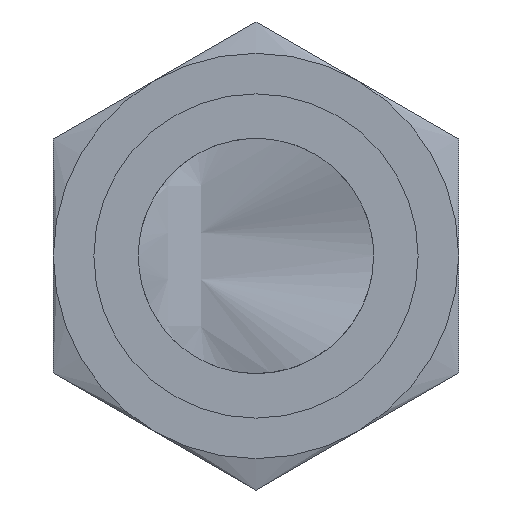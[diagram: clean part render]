
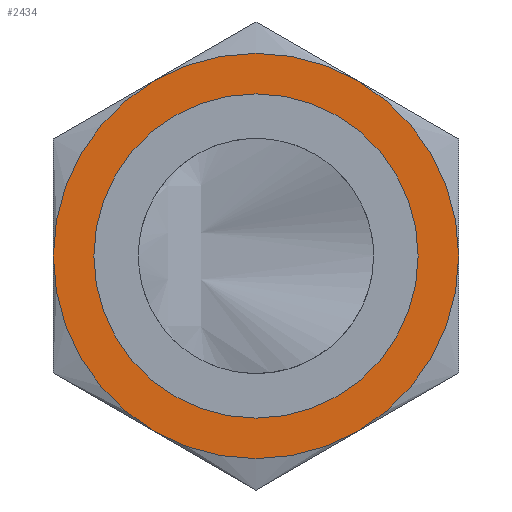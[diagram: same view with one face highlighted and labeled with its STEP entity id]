
A CAD part, front view. The second image highlights one B-rep face of the part: STEP entity #2434.
In plain terms, the highlighted planar face has unit normal (0, -1, 0) as drawn and (0, 0, -1) by its records, which use the part's own axes.
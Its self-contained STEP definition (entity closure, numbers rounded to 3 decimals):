
#1785=CARTESIAN_POINT('',(0.,0.,0.));
#1786=DIRECTION('',(0.,0.,-1.));
#1787=DIRECTION('',(1.,0.,0.));
#1788=AXIS2_PLACEMENT_3D('',#1785,#1786,#1787);
#1793=CARTESIAN_POINT('',(0.,0.,0.));
#1794=DIRECTION('',(0.,0.,-1.));
#1795=DIRECTION('',(0.5,0.866,0.));
#1796=AXIS2_PLACEMENT_3D('',#1793,#1794,#1795);
#1801=CARTESIAN_POINT('',(0.,0.,0.));
#1802=DIRECTION('',(0.,0.,-1.));
#1803=DIRECTION('',(-1.,0.,0.));
#1804=AXIS2_PLACEMENT_3D('',#1801,#1802,#1803);
#1809=CARTESIAN_POINT('',(0.,0.,0.));
#1810=DIRECTION('',(0.,0.,-1.));
#1811=DIRECTION('',(-0.5,-0.866,0.));
#1812=AXIS2_PLACEMENT_3D('',#1809,#1810,#1811);
#1817=CARTESIAN_POINT('',(0.,0.,0.));
#1818=DIRECTION('',(0.,0.,-1.));
#1819=DIRECTION('',(0.,-1.,0.));
#1820=AXIS2_PLACEMENT_3D('',#1817,#1818,#1819);
#1825=CARTESIAN_POINT('',(0.,0.,0.));
#1826=DIRECTION('',(0.,0.,-1.));
#1827=DIRECTION('',(0.,1.,0.));
#1828=AXIS2_PLACEMENT_3D('',#1825,#1826,#1827);
#1833=CARTESIAN_POINT('',(0.,0.,0.));
#1834=DIRECTION('',(0.,0.,-1.));
#1835=DIRECTION('',(0.5,-0.866,0.));
#1836=AXIS2_PLACEMENT_3D('',#1833,#1834,#1835);
#1896=CARTESIAN_POINT('',(0.,0.,0.));
#1897=DIRECTION('',(0.,0.,-1.));
#1898=DIRECTION('',(-0.5,0.866,0.));
#1899=AXIS2_PLACEMENT_3D('',#1896,#1897,#1898);
#2349=CARTESIAN_POINT('',(-2.5,-4.33,0.));
#2350=CARTESIAN_POINT('',(-5.,0.,0.));
#2351=VERTEX_POINT('',#2349);
#2352=VERTEX_POINT('',#2350);
#2353=CARTESIAN_POINT('',(-2.5,4.33,0.));
#2354=VERTEX_POINT('',#2353);
#2355=CARTESIAN_POINT('',(2.5,4.33,0.));
#2356=CARTESIAN_POINT('',(5.,0.,0.));
#2357=VERTEX_POINT('',#2355);
#2358=VERTEX_POINT('',#2356);
#2359=CARTESIAN_POINT('',(2.5,-4.33,0.));
#2360=VERTEX_POINT('',#2359);
#2385=CARTESIAN_POINT('',(0.,-3.,0.));
#2386=CARTESIAN_POINT('',(0.,3.,0.));
#2387=VERTEX_POINT('',#2385);
#2388=VERTEX_POINT('',#2386);
#2409=CARTESIAN_POINT('',(0.,0.,0.));
#2410=DIRECTION('',(0.,0.,1.));
#2411=DIRECTION('',(1.,0.,0.));
#2412=AXIS2_PLACEMENT_3D('',#2409,#2410,#2411);
#2413=PLANE('',#2412);
#2415=ORIENTED_EDGE('',*,*,#2414,.F.);
#2417=ORIENTED_EDGE('',*,*,#2416,.F.);
#2419=ORIENTED_EDGE('',*,*,#2418,.F.);
#2421=ORIENTED_EDGE('',*,*,#2420,.F.);
#2423=ORIENTED_EDGE('',*,*,#2422,.F.);
#2425=ORIENTED_EDGE('',*,*,#2424,.F.);
#2426=EDGE_LOOP('',(#2415,#2417,#2419,#2421,#2423,#2425));
#2427=FACE_OUTER_BOUND('',#2426,.F.);
#2429=ORIENTED_EDGE('',*,*,#2428,.T.);
#2431=ORIENTED_EDGE('',*,*,#2430,.T.);
#2432=EDGE_LOOP('',(#2429,#2431));
#2433=FACE_BOUND('',#2432,.F.);
#1789=CIRCLE('',#1788,5.);
#1797=CIRCLE('',#1796,5.);
#1805=CIRCLE('',#1804,5.);
#1813=CIRCLE('',#1812,5.);
#1821=CIRCLE('',#1820,3.);
#1829=CIRCLE('',#1828,3.);
#1837=CIRCLE('',#1836,5.);
#1900=CIRCLE('',#1899,5.);
#2414=EDGE_CURVE('',#2360,#2351,#1837,.T.);
#2416=EDGE_CURVE('',#2358,#2360,#1789,.T.);
#2418=EDGE_CURVE('',#2357,#2358,#1797,.T.);
#2420=EDGE_CURVE('',#2354,#2357,#1900,.T.);
#2422=EDGE_CURVE('',#2352,#2354,#1805,.T.);
#2424=EDGE_CURVE('',#2351,#2352,#1813,.T.);
#2428=EDGE_CURVE('',#2387,#2388,#1821,.T.);
#2430=EDGE_CURVE('',#2388,#2387,#1829,.T.);
#2434=ADVANCED_FACE('',(#2427,#2433),#2413,.F.);
